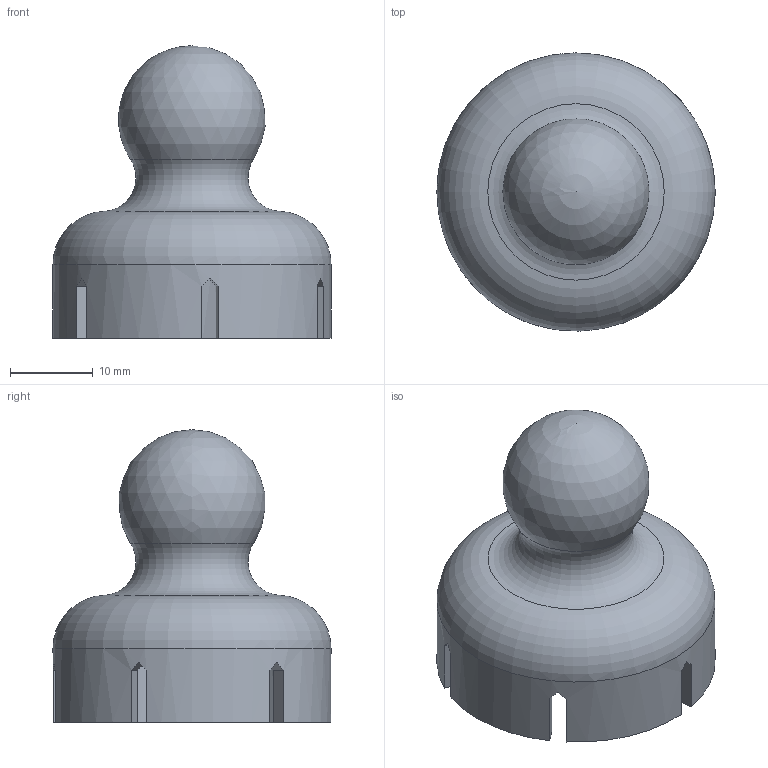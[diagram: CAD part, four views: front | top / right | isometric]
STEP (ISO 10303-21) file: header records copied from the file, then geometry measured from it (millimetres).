
FILE_DESCRIPTION(/* description */ (''),/* implementation_level */ '2;1');
FILE_NAME(/* name */ 'c:\worker\convert-fusion-mar-2019\tmp\job-1\20\output\files\6578db4b-e17a-4563-94ed-cfe48b9b5d6a\3f6ee6c0-2bd4-4c1b-ad6a-d1a80ac1e9b6.stp',/* time_stamp */ '2019-03-31T14:37:51+00:00',/* author */ (''),/* organization */ (''),/* preprocessor_version */ 'ST-DEVELOPER v17.2',/* originating_system */ 'Autodesk Translation Framework v7.6.0.251',/* authorisation */ '');
FILE_SCHEMA (('AUTOMOTIVE_DESIGN { 1 0 10303 214 3 1 1 }'));
Length unit declared in the file: millimetre
Products named in the file (1): HAAS Memorry Aid
Bounding box: 33.61 x 33.61 x 35.35 mm (x, y, z)
Volume: 5666.7 mm3; surface area: 6564.4 mm2
Topology: 1 solids, 1 shells, 84 faces, 252 edges, 168 vertices
Faces by surface type: plane 54, torus 14, cylinder 8, sphere 7, cone 1
Full cylindrical faces by diameter (mm): 29.616 x1, 33.616 x1
Entity records: 3353 total; most frequent: CARTESIAN_POINT 1025, ORIENTED_EDGE 500, DIRECTION 493, EDGE_CURVE 250, AXIS2_PLACEMENT_3D 194, VERTEX_POINT 168, LINE 105, VECTOR 105
